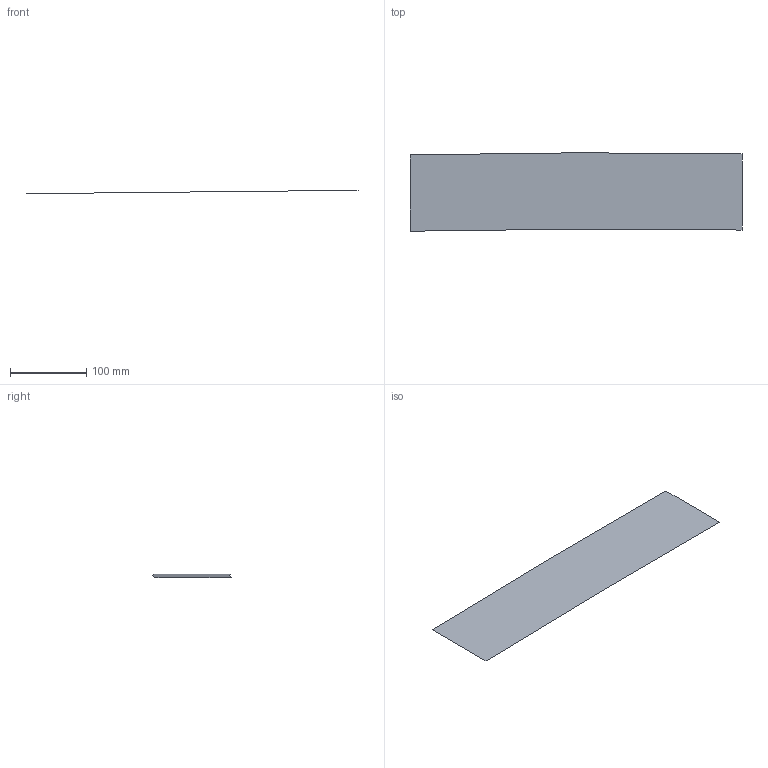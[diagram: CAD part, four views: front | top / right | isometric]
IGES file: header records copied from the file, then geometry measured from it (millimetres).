
Start section: START RECORD GO HERE
Global section: file name: w10.igs; native system: IBM CATIA IGES - CATIA SOLUTIONS V4RELEASE 1.9 REFRESH 01; preprocessor: CATIA SOLUTIONS V4RELEASE 1.9 REFRESH 01; author: cky; date: 990510.133752; units: millimetre
Bounding box: 435 x 102.66 x 4.47 mm (x, y, z)
Surface area: 43502 mm2 (no closed solid volume)
Topology: 0 solids, 0 shells, 1 faces, 6 edges, 6 vertices
Faces by surface type: extrusion 1
